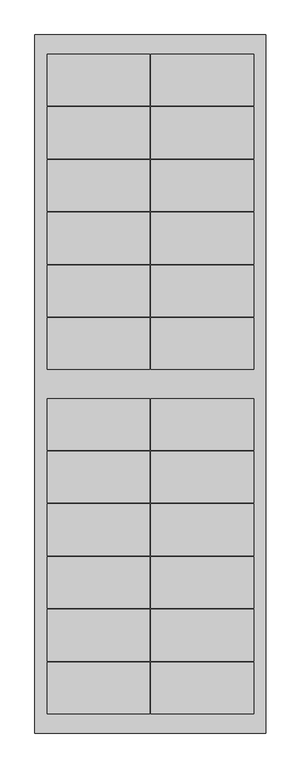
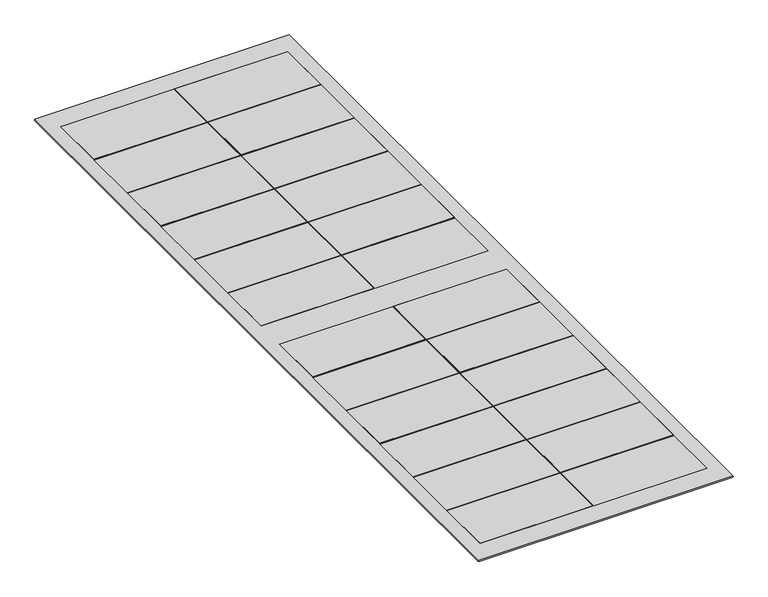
"""IFC4 building model written with IfcOpenShell, lengths in millimetres: proxy geometry, Construction-Roof_Roofit-Solar_velario-slim-t-2x12-120-sg : Velario Slim T-2x12/120 Snowguard."""

from ifc_helpers import new_model, si_unit, origin, origin_with_axes, place, context, project, spatial, polyline, outline, extrude, source, transform, mapped, element, save


def specialty_equipment_16722cac(model_context):
    return source(origin(), model_context, "Body", "SweptSolid", [
        extrude(outline(polyline([(-209.2, 564.5), (-209.2, 669.5), (-1.0, 669.5), (-1.0, 564.5), (-209.2, 564.5)])), origin_with_axes(), (0.0, 0.0, 1.0), 3.2),
        extrude(outline(polyline([(1.0, 564.5), (1.0, 669.5), (209.2, 669.5), (209.2, 564.5), (1.0, 564.5)])), origin_with_axes(), (0.0, 0.0, 1.0), 3.2),
        extrude(outline(polyline([(-1.0, 562.5), (-1.0, 457.5), (-209.2, 457.5), (-209.2, 562.5), (-1.0, 562.5)])), origin_with_axes(), (0.0, 0.0, 1.0), 3.2),
        extrude(outline(polyline([(209.2, 562.5), (209.2, 457.5), (1.0, 457.5), (1.0, 562.5), (209.2, 562.5)])), origin_with_axes(), (0.0, 0.0, 1.0), 3.2),
        extrude(outline(polyline([(-209.2, 350.5), (-209.2, 455.5), (-1.0, 455.5), (-1.0, 350.5), (-209.2, 350.5)])), origin_with_axes(), (0.0, 0.0, 1.0), 3.2),
        extrude(outline(polyline([(1.0, 350.5), (1.0, 455.5), (209.2, 455.5), (209.2, 350.5), (1.0, 350.5)])), origin_with_axes(), (0.0, 0.0, 1.0), 3.2),
        extrude(outline(polyline([(-1.0, 348.5), (-1.0, 243.5), (-209.2, 243.5), (-209.2, 348.5), (-1.0, 348.5)])), origin_with_axes(), (0.0, 0.0, 1.0), 3.2),
        extrude(outline(polyline([(209.2, 348.5), (209.2, 243.5), (1.0, 243.5), (1.0, 348.5), (209.2, 348.5)])), origin_with_axes(), (0.0, 0.0, 1.0), 3.2),
        extrude(outline(polyline([(-1.0, 241.5), (-1.0, 136.5), (-209.2, 136.5), (-209.2, 241.5), (-1.0, 241.5)])), origin_with_axes(), (0.0, 0.0, 1.0), 3.2),
        extrude(outline(polyline([(209.2, 241.5), (209.2, 136.5), (1.0, 136.5), (1.0, 241.5), (209.2, 241.5)])), origin_with_axes(), (0.0, 0.0, 1.0), 3.2),
        extrude(outline(polyline([(209.2, 134.5), (209.2, 29.5), (1.0, 29.5), (1.0, 134.5), (209.2, 134.5)])), origin_with_axes(), (0.0, 0.0, 1.0), 3.2),
        extrude(outline(polyline([(-1.0, 134.5), (-1.0, 29.5), (-209.2, 29.5), (-209.2, 134.5), (-1.0, 134.5)])), origin_with_axes(), (0.0, 0.0, 1.0), 3.2),
        extrude(outline(polyline([(-1.0, -29.5), (-1.0, -134.5), (-209.2, -134.5), (-209.2, -29.5), (-1.0, -29.5)])), origin_with_axes(), (0.0, 0.0, 1.0), 3.2),
        extrude(outline(polyline([(209.2, -29.5), (209.2, -134.5), (1.0, -134.5), (1.0, -29.5), (209.2, -29.5)])), origin_with_axes(), (0.0, 0.0, 1.0), 3.2),
        extrude(outline(polyline([(-1.0, -136.5), (-1.0, -241.5), (-209.2, -241.5), (-209.2, -136.5), (-1.0, -136.5)])), origin_with_axes(), (0.0, 0.0, 1.0), 3.2),
        extrude(outline(polyline([(209.2, -136.5), (209.2, -241.5), (1.0, -241.5), (1.0, -136.5), (209.2, -136.5)])), origin_with_axes(), (0.0, 0.0, 1.0), 3.2),
        extrude(outline(polyline([(-1.0, -243.5), (-1.0, -348.5), (-209.2, -348.5), (-209.2, -243.5), (-1.0, -243.5)])), origin_with_axes(), (0.0, 0.0, 1.0), 3.2),
        extrude(outline(polyline([(209.2, -243.5), (209.2, -348.5), (1.0, -348.5), (1.0, -243.5), (209.2, -243.5)])), origin_with_axes(), (0.0, 0.0, 1.0), 3.2),
        extrude(outline(polyline([(-1.0, -350.5), (-1.0, -455.5), (-209.2, -455.5), (-209.2, -350.5), (-1.0, -350.5)])), origin_with_axes(), (0.0, 0.0, 1.0), 3.2),
        extrude(outline(polyline([(209.2, -350.5), (209.2, -455.5), (1.0, -455.5), (1.0, -350.5), (209.2, -350.5)])), origin_with_axes(), (0.0, 0.0, 1.0), 3.2),
        extrude(outline(polyline([(-1.0, -457.5), (-1.0, -562.5), (-209.2, -562.5), (-209.2, -457.5), (-1.0, -457.5)])), origin_with_axes(), (0.0, 0.0, 1.0), 3.2),
        extrude(outline(polyline([(209.2, -457.5), (209.2, -562.5), (1.0, -562.5), (1.0, -457.5), (209.2, -457.5)])), origin_with_axes(), (0.0, 0.0, 1.0), 3.2),
        extrude(outline(polyline([(-1.0, -564.5), (-1.0, -669.5), (-209.2, -669.5), (-209.2, -564.5), (-1.0, -564.5)])), origin_with_axes(), (0.0, 0.0, 1.0), 3.2),
        extrude(outline(polyline([(209.2, -564.5), (209.2, -669.5), (1.0, -669.5), (1.0, -564.5), (209.2, -564.5)])), origin_with_axes(), (0.0, 0.0, 1.0), 3.2),
        extrude(outline(polyline([(234.5, 708.5), (234.5, -708.5), (-234.5, -708.5), (-234.5, 708.5), (234.5, 708.5)]), holes=[polyline([(1.0, 564.5), (209.2, 564.5), (209.2, 669.5), (1.0, 669.5), (1.0, 564.5)]), polyline([(-1.0, 669.5), (-209.2, 669.5), (-209.2, 564.5), (-1.0, 564.5), (-1.0, 669.5)]), polyline([(1.0, 457.5), (209.2, 457.5), (209.2, 562.5), (1.0, 562.5), (1.0, 457.5)]), polyline([(-1.0, 562.5), (-209.2, 562.5), (-209.2, 457.5), (-1.0, 457.5), (-1.0, 562.5)]), polyline([(1.0, 350.5), (209.2, 350.5), (209.2, 455.5), (1.0, 455.5), (1.0, 350.5)]), polyline([(-1.0, 455.5), (-209.2, 455.5), (-209.2, 350.5), (-1.0, 350.5), (-1.0, 455.5)]), polyline([(1.0, 243.5), (209.2, 243.5), (209.2, 348.5), (1.0, 348.5), (1.0, 243.5)]), polyline([(-1.0, 348.5), (-209.2, 348.5), (-209.2, 243.5), (-1.0, 243.5), (-1.0, 348.5)]), polyline([(1.0, 136.5), (209.2, 136.5), (209.2, 241.5), (1.0, 241.5), (1.0, 136.5)]), polyline([(-1.0, 241.5), (-209.2, 241.5), (-209.2, 136.5), (-1.0, 136.5), (-1.0, 241.5)]), polyline([(1.0, 29.5), (209.2, 29.5), (209.2, 134.5), (1.0, 134.5), (1.0, 29.5)]), polyline([(-1.0, 134.5), (-209.2, 134.5), (-209.2, 29.5), (-1.0, 29.5), (-1.0, 134.5)]), polyline([(-1.0, -29.5), (-209.2, -29.5), (-209.2, -134.5), (-1.0, -134.5), (-1.0, -29.5)]), polyline([(1.0, -134.5), (209.2, -134.5), (209.2, -29.5), (1.0, -29.5), (1.0, -134.5)]), polyline([(-1.0, -136.5), (-209.2, -136.5), (-209.2, -241.5), (-1.0, -241.5), (-1.0, -136.5)]), polyline([(1.0, -241.5), (209.2, -241.5), (209.2, -136.5), (1.0, -136.5), (1.0, -241.5)]), polyline([(-1.0, -243.5), (-209.2, -243.5), (-209.2, -348.5), (-1.0, -348.5), (-1.0, -243.5)]), polyline([(1.0, -348.5), (209.2, -348.5), (209.2, -243.5), (1.0, -243.5), (1.0, -348.5)]), polyline([(-1.0, -350.5), (-209.2, -350.5), (-209.2, -455.5), (-1.0, -455.5), (-1.0, -350.5)]), polyline([(1.0, -455.5), (209.2, -455.5), (209.2, -350.5), (1.0, -350.5), (1.0, -455.5)]), polyline([(-1.0, -457.5), (-209.2, -457.5), (-209.2, -562.5), (-1.0, -562.5), (-1.0, -457.5)]), polyline([(1.0, -562.5), (209.2, -562.5), (209.2, -457.5), (1.0, -457.5), (1.0, -562.5)]), polyline([(-1.0, -564.5), (-209.2, -564.5), (-209.2, -669.5), (-1.0, -669.5), (-1.0, -564.5)]), polyline([(1.0, -669.5), (209.2, -669.5), (209.2, -564.5), (1.0, -564.5), (1.0, -669.5)])]), origin_with_axes(), (0.0, 0.0, 1.0), 3.2),
    ])


if __name__ == "__main__":
    model = new_model("IFC4")
    model_context = context("Model", 3, world=origin())
    ifc_project = project(units=[si_unit("LENGTHUNIT", "METRE", prefix="MILLI")], contexts=[model_context])
    site = spatial("IfcSite", under=ifc_project)
    building = spatial("IfcBuilding", under=site)
    placement = place(None, origin())
    specialty_equipment_shape = specialty_equipment_16722cac(model_context)
    element("IfcBuildingElementProxy", 1, Name="Construction-Roof_Roofit-Solar_velario-slim-t-2x12-120-sg : Velario Slim T-2x12/120 Snowguard", ObjectType="Construction-Roof_Roofit-Solar_velario-slim-t-2x12-120-sg : Velario Slim T-2x12/120 Snowguard", at=placement, inside=building, context=model_context, shape_type="MappedRepresentation", body=[
        mapped(specialty_equipment_shape, transform((0.0, 0.0, 0.0), x_axis=(1.0, 0.0, 0.0), y_axis=(0.0, 1.0, 0.0), z_axis=(0.0, 0.0, 1.0))),
    ])
    save(model, "model.ifc")
